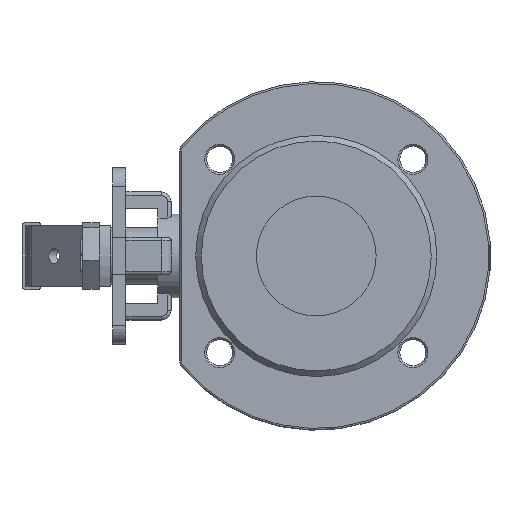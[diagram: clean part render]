
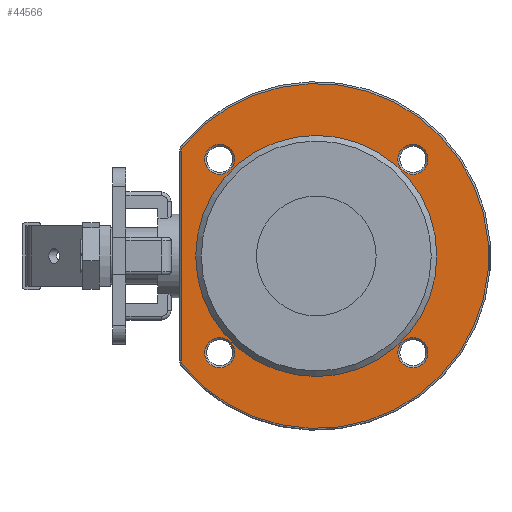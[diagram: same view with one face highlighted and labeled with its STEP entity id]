
A CAD part, left-side view. The second image highlights one B-rep face of the part: STEP entity #44566.
In plain terms, the highlighted planar face has unit normal (-1, 0, 0).
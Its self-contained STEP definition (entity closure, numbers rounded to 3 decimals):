
#44362=CARTESIAN_POINT('',(-52.,71.5,55.678));
#44363=VERTEX_POINT('',#44362);
#44371=CARTESIAN_POINT('',(-52.,70.586,58.223));
#44372=VERTEX_POINT('',#44371);
#44373=CARTESIAN_POINT('',(-52.,67.5,55.678));
#44374=DIRECTION('',(1.0,0.0,0.0));
#44375=DIRECTION('',(0.0,0.941,0.338));
#44376=AXIS2_PLACEMENT_3D('',#44373,#44374,#44375);
#44377=CIRCLE('',#44376,4.0);
#44378=EDGE_CURVE('',#44363,#44372,#44377,.T.);
#44402=CARTESIAN_POINT('',(-52.,70.586,-58.223));
#44403=VERTEX_POINT('',#44402);
#44413=CARTESIAN_POINT('',(-52.,0.0,0.0));
#44414=DIRECTION('',(1.0,0.0,0.0));
#44415=DIRECTION('',(0.0,-1.0,0.0));
#44416=AXIS2_PLACEMENT_3D('',#44413,#44414,#44415);
#44417=CIRCLE('',#44416,91.5);
#44418=EDGE_CURVE('',#44372,#44403,#44417,.T.);
#44428=CARTESIAN_POINT('',(-52.,71.5,-55.678));
#44429=VERTEX_POINT('',#44428);
#44439=CARTESIAN_POINT('',(-52.,67.5,-55.678));
#44440=DIRECTION('',(1.0,0.0,0.0));
#44441=DIRECTION('',(0.0,0.941,-0.338));
#44442=AXIS2_PLACEMENT_3D('',#44439,#44440,#44441);
#44443=CIRCLE('',#44442,4.0);
#44444=EDGE_CURVE('',#44403,#44429,#44443,.T.);
#44455=CARTESIAN_POINT('',(-52.,71.5,-55.678));
#44456=DIRECTION('',(0.0,0.0,1.0));
#44457=VECTOR('',#44456,111.355);
#44458=LINE('',#44455,#44457);
#44459=EDGE_CURVE('',#44429,#44363,#44458,.T.);
#44500=CARTESIAN_POINT('',(-52.,78.25,0.0));
#44501=DIRECTION('',(-1.0,0.0,0.0));
#44502=DIRECTION('',(0.0,0.0,1.0));
#44503=AXIS2_PLACEMENT_3D('',#44500,#44501,#44502);
#44504=PLANE('',#44503);
#44505=ORIENTED_EDGE('',*,*,#44378,.F.);
#44506=ORIENTED_EDGE('',*,*,#44459,.F.);
#44507=ORIENTED_EDGE('',*,*,#44444,.F.);
#44508=ORIENTED_EDGE('',*,*,#44418,.F.);
#44509=EDGE_LOOP('',(#44505,#44506,#44507,#44508));
#44510=FACE_OUTER_BOUND('',#44509,.T.);
#44511=CARTESIAN_POINT('',(-52.,64.,0.0));
#44512=VERTEX_POINT('',#44511);
#44513=CARTESIAN_POINT('',(-52.,0.0,0.0));
#44514=DIRECTION('',(1.0,0.0,0.0));
#44515=DIRECTION('',(0.0,1.0,0.0));
#44516=AXIS2_PLACEMENT_3D('',#44513,#44514,#44515);
#44517=CIRCLE('',#44516,64.);
#44518=EDGE_CURVE('',#44512,#44512,#44517,.T.);
#44519=ORIENTED_EDGE('',*,*,#44518,.T.);
#44520=EDGE_LOOP('',(#44519));
#44521=FACE_BOUND('',#44520,.T.);
#44522=CARTESIAN_POINT('',(-52.,51.265,59.265));
#44523=VERTEX_POINT('',#44522);
#44524=CARTESIAN_POINT('',(-52.,51.265,51.265));
#44525=DIRECTION('',(1.0,0.0,0.0));
#44526=DIRECTION('',(0.0,0.0,1.0));
#44527=AXIS2_PLACEMENT_3D('',#44524,#44525,#44526);
#44528=CIRCLE('',#44527,8.);
#44529=EDGE_CURVE('',#44523,#44523,#44528,.T.);
#44530=ORIENTED_EDGE('',*,*,#44529,.T.);
#44531=EDGE_LOOP('',(#44530));
#44532=FACE_BOUND('',#44531,.T.);
#44533=CARTESIAN_POINT('',(-52.,51.265,-43.265));
#44534=VERTEX_POINT('',#44533);
#44535=CARTESIAN_POINT('',(-52.,51.265,-51.265));
#44536=DIRECTION('',(1.0,0.0,0.0));
#44537=DIRECTION('',(0.0,0.0,1.0));
#44538=AXIS2_PLACEMENT_3D('',#44535,#44536,#44537);
#44539=CIRCLE('',#44538,8.);
#44540=EDGE_CURVE('',#44534,#44534,#44539,.T.);
#44541=ORIENTED_EDGE('',*,*,#44540,.T.);
#44542=EDGE_LOOP('',(#44541));
#44543=FACE_BOUND('',#44542,.T.);
#44544=CARTESIAN_POINT('',(-52.,-51.265,-43.265));
#44545=VERTEX_POINT('',#44544);
#44546=CARTESIAN_POINT('',(-52.,-51.265,-51.265));
#44547=DIRECTION('',(1.0,0.0,0.0));
#44548=DIRECTION('',(0.0,0.0,1.0));
#44549=AXIS2_PLACEMENT_3D('',#44546,#44547,#44548);
#44550=CIRCLE('',#44549,8.);
#44551=EDGE_CURVE('',#44545,#44545,#44550,.T.);
#44552=ORIENTED_EDGE('',*,*,#44551,.T.);
#44553=EDGE_LOOP('',(#44552));
#44554=FACE_BOUND('',#44553,.T.);
#44555=CARTESIAN_POINT('',(-52.,-51.265,59.265));
#44556=VERTEX_POINT('',#44555);
#44557=CARTESIAN_POINT('',(-52.,-51.265,51.265));
#44558=DIRECTION('',(1.0,0.0,0.0));
#44559=DIRECTION('',(0.0,0.0,1.0));
#44560=AXIS2_PLACEMENT_3D('',#44557,#44558,#44559);
#44561=CIRCLE('',#44560,8.);
#44562=EDGE_CURVE('',#44556,#44556,#44561,.T.);
#44563=ORIENTED_EDGE('',*,*,#44562,.T.);
#44564=EDGE_LOOP('',(#44563));
#44565=FACE_BOUND('',#44564,.T.);
#44566=ADVANCED_FACE('',(#44510,#44521,#44532,#44543,#44554,#44565),#44504,.T.);
